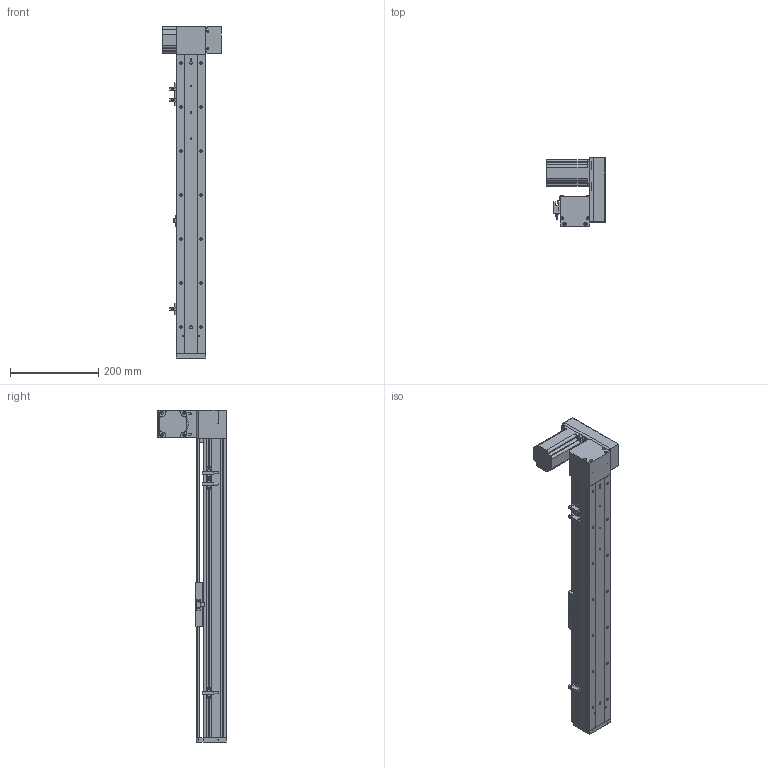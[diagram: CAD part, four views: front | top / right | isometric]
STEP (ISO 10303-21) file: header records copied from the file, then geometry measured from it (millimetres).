
FILE_DESCRIPTION (( 'STEP AP203' ), '1' );
FILE_NAME ('ML68-S500-UL.STEP', '2016-08-04T12:24:38', ( '' ), ( '' ), 'SwSTEP 2.0', 'SolidWorks 2014', '' );
FILE_SCHEMA (( 'CONFIG_CONTROL_DESIGN' ));
Length unit declared in the file: millimetre
Products named in the file (12): QS68左右折电机板罩子; ML68滅鳥啣盓傅輸媼; ML68雄赽釱; ML68-BR傷啣; ML68傷啣; ML68奻裔^ML68-S500-UL; 換覜ん; QS68酘衵殏萇儂啣; 60換覜結え; 三协电机MH201N2_預設; ML68-S500-UL; ML68菁釱^ML68-S500-UL
Assembly tree (13 placements, depth 2):
  ML68-S500-UL
    ML68菁釱^ML68-S500-UL
    ML68奻裔^ML68-S500-UL
    60換覜結え
    ML68-BR傷啣
    換覜ん  x3
    ML68傷啣
    三协电机MH201N2_預設
    ML68雄赽釱
    QS68酘衵殏萇儂啣
    QS68左右折电机板罩子
    ML68滅鳥啣盓傅輸媼
Bounding box: 133.5 x 157 x 754 mm (x, y, z)
Volume: 1544620.2 mm3; surface area: 563168.5 mm2
Topology: 13 solids, 13 shells, 903 faces, 2472 edges, 1571 vertices
Faces by surface type: cylinder 412, plane 399, cone 92
Entity records: 28636 total; most frequent: CARTESIAN_POINT 5466, DIRECTION 4686, ORIENTED_EDGE 4452, EDGE_CURVE 2226, AXIS2_PLACEMENT_3D 1691, VERTEX_POINT 1459, VECTOR 1304, LINE 1304
